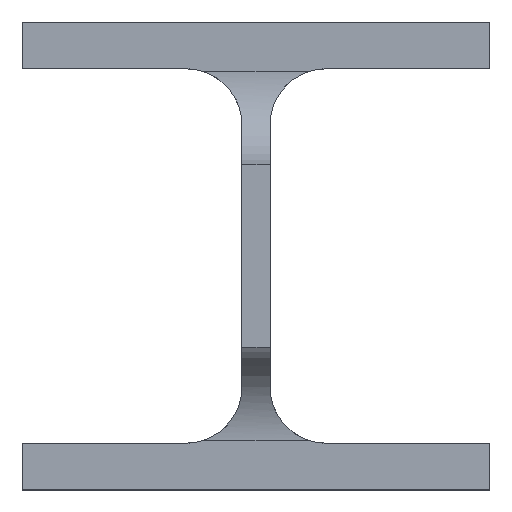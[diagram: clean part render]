
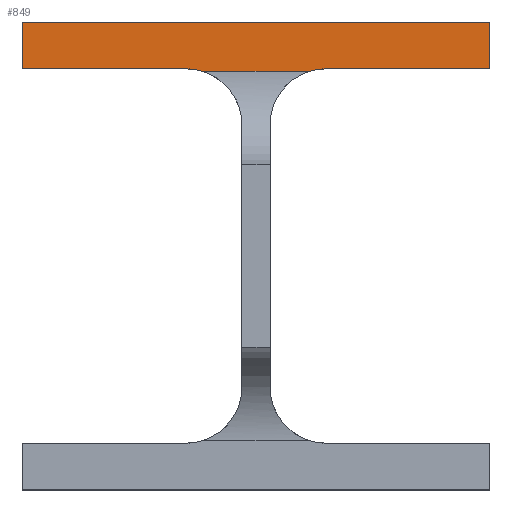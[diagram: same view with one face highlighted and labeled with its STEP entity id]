
A CAD part, front view. The second image highlights one B-rep face of the part: STEP entity #849.
In plain terms, the highlighted planar face has unit normal (0, -1, 0).
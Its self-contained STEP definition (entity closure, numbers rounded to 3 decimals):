
#81 = DIRECTION ( 'NONE',  ( -1., 0., 0. ) ) ;
#97 = VECTOR ( 'NONE', #934, 1000. ) ;
#99 = DIRECTION ( 'NONE',  ( 0., -1., 0. ) ) ;
#102 = VECTOR ( 'NONE', #2985, 1000. ) ;
#224 = CARTESIAN_POINT ( 'NONE',  ( 6896.572, 2057., 2379.5 ) ) ;
#287 = CIRCLE ( 'NONE', #2312, 12. ) ;
#311 = EDGE_CURVE ( 'NONE', #3286, #1769, #3580, .T. ) ;
#323 = LINE ( 'NONE', #874, #2961 ) ;
#348 = AXIS2_PLACEMENT_3D ( 'NONE', #2002, #3135, #1215 ) ;
#382 = CARTESIAN_POINT ( 'NONE',  ( 6870., 2057., 2368. ) ) ;
#404 = ORIENTED_EDGE ( 'NONE', *, *, #451, .F. ) ;
#451 = EDGE_CURVE ( 'NONE', #1634, #2111, #2546, .T. ) ;
#469 = EDGE_CURVE ( 'NONE', #2604, #2026, #323, .T. ) ;
#542 = EDGE_CURVE ( 'NONE', #3188, #2604, #287, .T. ) ;
#573 = CARTESIAN_POINT ( 'NONE',  ( 6873.428, 2057., 2379.5 ) ) ;
#636 = CARTESIAN_POINT ( 'NONE',  ( 6935., 2057., 2390. ) ) ;
#849 = ADVANCED_FACE ( 'NONE', ( #1389 ), #1730, .F. ) ;
#874 = CARTESIAN_POINT ( 'NONE',  ( 6835., 2057., 2380. ) ) ;
#910 = ORIENTED_EDGE ( 'NONE', *, *, #964, .F. ) ;
#929 = CARTESIAN_POINT ( 'NONE',  ( 6935., 2057., 2380. ) ) ;
#934 = DIRECTION ( 'NONE',  ( 0., 0., 1. ) ) ;
#964 = EDGE_CURVE ( 'NONE', #2111, #3188, #3512, .T. ) ;
#1049 = ORIENTED_EDGE ( 'NONE', *, *, #1676, .F. ) ;
#1153 = LINE ( 'NONE', #1471, #97 ) ;
#1178 = CARTESIAN_POINT ( 'NONE',  ( 6900., 2057., 2368. ) ) ;
#1215 = DIRECTION ( 'NONE',  ( 0., 0., 1. ) ) ;
#1362 = VECTOR ( 'NONE', #2155, 1000. ) ;
#1389 = FACE_OUTER_BOUND ( 'NONE', #1764, .T. ) ;
#1424 = DIRECTION ( 'NONE',  ( 0., -1., 0. ) ) ;
#1430 = ORIENTED_EDGE ( 'NONE', *, *, #469, .F. ) ;
#1471 = CARTESIAN_POINT ( 'NONE',  ( 6835., 2057., 2390. ) ) ;
#1512 = DIRECTION ( 'NONE',  ( 0., 0., 1. ) ) ;
#1600 = EDGE_CURVE ( 'NONE', #2026, #1769, #1153, .T. ) ;
#1634 = VERTEX_POINT ( 'NONE', #2294 ) ;
#1646 = EDGE_CURVE ( 'NONE', #1878, #1634, #2385, .T. ) ;
#1676 = EDGE_CURVE ( 'NONE', #3286, #1878, #1849, .T. ) ;
#1730 = PLANE ( 'NONE',  #348 ) ;
#1764 = EDGE_LOOP ( 'NONE', ( #2010, #1049, #3150, #2991, #1430, #1992, #910, #404 ) ) ;
#1769 = VERTEX_POINT ( 'NONE', #2776 ) ;
#1813 = CARTESIAN_POINT ( 'NONE',  ( 6900., 2057., 2380. ) ) ;
#1849 = LINE ( 'NONE', #3482, #3183 ) ;
#1878 = VERTEX_POINT ( 'NONE', #929 ) ;
#1969 = CARTESIAN_POINT ( 'NONE',  ( 6870., 2057., 2380. ) ) ;
#1992 = ORIENTED_EDGE ( 'NONE', *, *, #542, .F. ) ;
#2002 = CARTESIAN_POINT ( 'NONE',  ( 6935., 2057., 2379.5 ) ) ;
#2010 = ORIENTED_EDGE ( 'NONE', *, *, #1646, .F. ) ;
#2026 = VERTEX_POINT ( 'NONE', #3559 ) ;
#2050 = CARTESIAN_POINT ( 'NONE',  ( 6935., 2057., 2379.5 ) ) ;
#2098 = DIRECTION ( 'NONE',  ( 0., 0., -1. ) ) ;
#2111 = VERTEX_POINT ( 'NONE', #224 ) ;
#2155 = DIRECTION ( 'NONE',  ( -1., 0., 0. ) ) ;
#2294 = CARTESIAN_POINT ( 'NONE',  ( 6900., 2057., 2380. ) ) ;
#2312 = AXIS2_PLACEMENT_3D ( 'NONE', #382, #99, #1512 ) ;
#2385 = LINE ( 'NONE', #1813, #1362 ) ;
#2494 = CARTESIAN_POINT ( 'NONE',  ( 6935., 2057., 2390. ) ) ;
#2546 = CIRCLE ( 'NONE', #2734, 12. ) ;
#2595 = VECTOR ( 'NONE', #3181, 1000. ) ;
#2604 = VERTEX_POINT ( 'NONE', #1969 ) ;
#2734 = AXIS2_PLACEMENT_3D ( 'NONE', #1178, #1424, #3367 ) ;
#2776 = CARTESIAN_POINT ( 'NONE',  ( 6835., 2057., 2390. ) ) ;
#2961 = VECTOR ( 'NONE', #81, 1000. ) ;
#2985 = DIRECTION ( 'NONE',  ( -1., 0., 0. ) ) ;
#2991 = ORIENTED_EDGE ( 'NONE', *, *, #1600, .F. ) ;
#3135 = DIRECTION ( 'NONE',  ( 0., 1., 0. ) ) ;
#3150 = ORIENTED_EDGE ( 'NONE', *, *, #311, .T. ) ;
#3181 = DIRECTION ( 'NONE',  ( -1., 0., 0. ) ) ;
#3183 = VECTOR ( 'NONE', #2098, 1000. ) ;
#3188 = VERTEX_POINT ( 'NONE', #573 ) ;
#3286 = VERTEX_POINT ( 'NONE', #636 ) ;
#3367 = DIRECTION ( 'NONE',  ( 0., 0., 1. ) ) ;
#3482 = CARTESIAN_POINT ( 'NONE',  ( 6935., 2057., 2379.5 ) ) ;
#3512 = LINE ( 'NONE', #2050, #2595 ) ;
#3559 = CARTESIAN_POINT ( 'NONE',  ( 6835., 2057., 2380. ) ) ;
#3580 = LINE ( 'NONE', #2494, #102 ) ;
